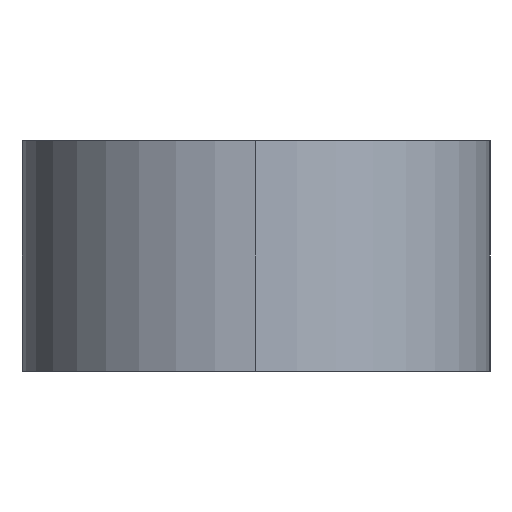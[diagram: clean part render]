
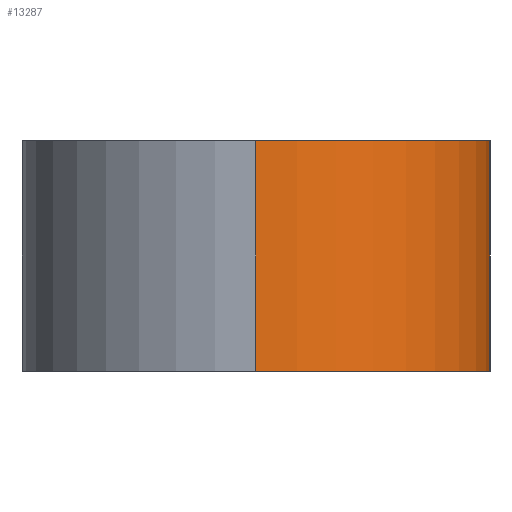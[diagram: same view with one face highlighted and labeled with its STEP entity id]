
A CAD part, left-side view. The second image highlights one B-rep face of the part: STEP entity #13287.
In plain terms, the highlighted cylindrical face has radius 6.2 mm (diameter 12.4 mm), a partial arc.
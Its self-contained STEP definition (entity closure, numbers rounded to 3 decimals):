
#1574 = CIRCLE ( 'NONE', #20027, 6.2 ) ;
#2020 = DIRECTION ( 'NONE',  ( 1., 0., 0. ) ) ;
#2932 = CIRCLE ( 'NONE', #8974, 6.2 ) ;
#3418 = FACE_OUTER_BOUND ( 'NONE', #8626, .T. ) ;
#4619 = ORIENTED_EDGE ( 'NONE', *, *, #13787, .F. ) ;
#5185 = VECTOR ( 'NONE', #19186, 1000. ) ;
#5255 = VECTOR ( 'NONE', #16806, 1000. ) ;
#5835 = EDGE_CURVE ( 'NONE', #20810, #19331, #17541, .T. ) ;
#5930 = ORIENTED_EDGE ( 'NONE', *, *, #20378, .F. ) ;
#6927 = VERTEX_POINT ( 'NONE', #7695 ) ;
#7676 = VERTEX_POINT ( 'NONE', #22716 ) ;
#7695 = CARTESIAN_POINT ( 'NONE',  ( -69.85, -6.2, -3.05 ) ) ;
#8076 = CARTESIAN_POINT ( 'NONE',  ( -69.85, -6.2, 1. ) ) ;
#8617 = ORIENTED_EDGE ( 'NONE', *, *, #19480, .T. ) ;
#8626 = EDGE_LOOP ( 'NONE', ( #4619, #21223, #8617, #5930 ) ) ;
#8974 = AXIS2_PLACEMENT_3D ( 'NONE', #11439, #20512, #2020 ) ;
#9529 = AXIS2_PLACEMENT_3D ( 'NONE', #21111, #12153, #23002 ) ;
#11439 = CARTESIAN_POINT ( 'NONE',  ( -69.85, 0., -3.05 ) ) ;
#11730 = LINE ( 'NONE', #8076, #5255 ) ;
#11994 = CARTESIAN_POINT ( 'NONE',  ( -76.05, 0., 1. ) ) ;
#12153 = DIRECTION ( 'NONE',  ( 0., 0., -1. ) ) ;
#13287 = ADVANCED_FACE ( 'NONE', ( #3418 ), #23226, .T. ) ;
#13787 = EDGE_CURVE ( 'NONE', #20810, #7676, #1574, .T. ) ;
#14133 = DIRECTION ( 'NONE',  ( 1., 0., 0. ) ) ;
#15765 = CARTESIAN_POINT ( 'NONE',  ( -69.85, 0., 3.05 ) ) ;
#16291 = CARTESIAN_POINT ( 'NONE',  ( -76.05, 0., -3.05 ) ) ;
#16806 = DIRECTION ( 'NONE',  ( 0., 0., -1. ) ) ;
#17541 = LINE ( 'NONE', #11994, #5185 ) ;
#18553 = CARTESIAN_POINT ( 'NONE',  ( -76.05, 0., 3.05 ) ) ;
#19186 = DIRECTION ( 'NONE',  ( 0., 0., -1. ) ) ;
#19331 = VERTEX_POINT ( 'NONE', #16291 ) ;
#19480 = EDGE_CURVE ( 'NONE', #19331, #6927, #2932, .T. ) ;
#20027 = AXIS2_PLACEMENT_3D ( 'NONE', #15765, #23093, #14133 ) ;
#20378 = EDGE_CURVE ( 'NONE', #7676, #6927, #11730, .T. ) ;
#20512 = DIRECTION ( 'NONE',  ( 0., 0., 1. ) ) ;
#20810 = VERTEX_POINT ( 'NONE', #18553 ) ;
#21111 = CARTESIAN_POINT ( 'NONE',  ( -69.85, 0., 1. ) ) ;
#21223 = ORIENTED_EDGE ( 'NONE', *, *, #5835, .T. ) ;
#22716 = CARTESIAN_POINT ( 'NONE',  ( -69.85, -6.2, 3.05 ) ) ;
#23002 = DIRECTION ( 'NONE',  ( -1., 0., 0. ) ) ;
#23093 = DIRECTION ( 'NONE',  ( 0., 0., 1. ) ) ;
#23226 = CYLINDRICAL_SURFACE ( 'NONE', #9529, 6.2 ) ;
